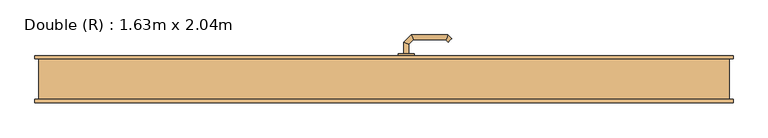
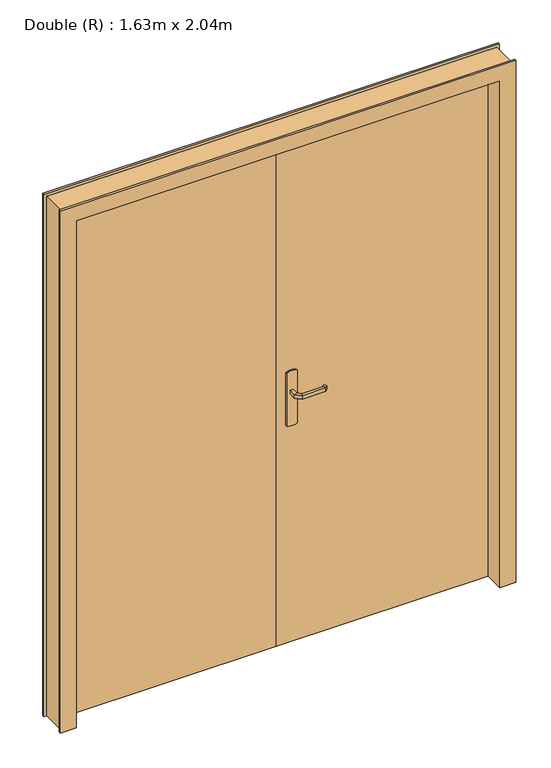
"""IFC4 building model written with IfcOpenShell, lengths in millimetres: door geometry, Double (R) : 1.63m x 2.04m."""

from ifc_helpers import new_model, si_unit, point, frame, frame_2d, origin, origin_with_axes, place, context, project, spatial, polyline, circle_curve, ellipse_curve, trimmed, segment, composite_curve, outline, extrude, faceted_brep, source, transform, mapped, element, save
from ifc_brep_helpers import plane_surface, cylinder_surface, advanced_brep


def double_r_1_63m_x_2_04m_5d470661(model_context):
    return source(origin(), model_context, "Body", "SolidModel", [
        advanced_brep(
        [(61.0, 13.0, 993.0), (49.0, 13.0, 993.0), (49.0, 13.0, 1007.0), (61.0, 13.0, 1007.0), (61.0, -9.4852045, 1007.0), (61.0, -9.4852045, 993.0), (49.0, -14.4557673, 1007.0), (49.0, -14.4557673, 993.0), (72.4852814, -20.9704859, 1007.0), (72.4852814, -20.9704859, 993.0), (67.5147186, -32.9704859, 1007.0), (67.5147186, -32.9704859, 993.0), (152.5605023, -20.9704859, 1007.0), (152.5605023, -20.9704859, 993.0), (157.531065, -32.9704859, 1007.0), (157.531065, -32.9704859, 993.0), (157.8742108, -15.6567774, 993.0), (157.8742108, -15.6567774, 1007.0), (166.3594922, -24.1420588, 1007.0), (166.3594922, -24.1420588, 993.0)],
        [
            (0, 1, circle_curve(frame((55.0, 13.0, 1013.0457722), z_axis=(0.0, 1.0, 0.0), x_axis=(-1.0, 0.0, 0.0)), 20.9244589)),
            (1, 2),
            (2, 3, circle_curve(frame((55.0, 13.0, 986.9542278), z_axis=(0.0, 1.0, 0.0), x_axis=(-1.0, 0.0, 0.0)), 20.9244589)),
            (3, 0),
            (3, 4),
            (4, 5),
            (5, 0),
            (2, 6),
            (6, 4, ellipse_curve(frame((55.0, -11.9704859, 986.9542278), z_axis=(-0.38268343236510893, 0.9238795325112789, 0.0), x_axis=(0.9238795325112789, 0.3826834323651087, 0.0)), 22.6484711, 20.9244589)),
            (1, 7),
            (7, 6),
            (5, 7, ellipse_curve(frame((55.0, -11.9704859, 1013.0457722), z_axis=(-0.38268343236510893, 0.9238795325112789, 0.0), x_axis=(0.9238795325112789, 0.3826834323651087, 0.0)), 22.6484711, 20.9244589)),
            (4, 8),
            (8, 9),
            (9, 5),
            (6, 10),
            (10, 8, ellipse_curve(frame((70.0, -26.9704859, 986.9542278), z_axis=(-0.9238795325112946, 0.38268343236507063, 0.0), x_axis=(0.3826834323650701, 0.9238795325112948, 0.0)), 22.6484711, 20.9244589)),
            (7, 11),
            (11, 10),
            (9, 11, ellipse_curve(frame((70.0, -26.9704859, 1013.0457722), z_axis=(-0.9238795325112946, 0.38268343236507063, 0.0), x_axis=(0.3826834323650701, 0.9238795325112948, 0.0)), 22.6484711, 20.9244589)),
            (8, 12),
            (12, 13),
            (13, 9),
            (10, 14),
            (14, 12, ellipse_curve(frame((155.0457837, -26.9704859, 986.9542278), z_axis=(-0.9238795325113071, -0.38268343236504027, 0.0), x_axis=(-0.38268343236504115, 0.9238795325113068, 0.0)), 22.6484711, 20.9244589)),
            (11, 15),
            (15, 14),
            (13, 15, ellipse_curve(frame((155.0457837, -26.9704859, 1013.0457722), z_axis=(-0.9238795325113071, -0.38268343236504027, 0.0), x_axis=(-0.38268343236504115, 0.9238795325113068, 0.0)), 22.6484711, 20.9244589)),
            (16, 17),
            (17, 18, circle_curve(frame((162.1168515, -19.8994181, 986.9542278), z_axis=(0.7071067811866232, 0.7071067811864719, 0.0), x_axis=(0.7071067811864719, -0.7071067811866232, 0.0)), 20.9244589)),
            (18, 19),
            (19, 16, circle_curve(frame((162.1168515, -19.8994181, 1013.0457722), z_axis=(0.7071067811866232, 0.7071067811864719, 0.0), x_axis=(0.7071067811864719, -0.7071067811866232, 0.0)), 20.9244589)),
            (12, 17),
            (16, 13),
            (14, 18),
            (15, 19),
        ],
        [
            plane_surface(frame((45.7804555, 13.0, 1000.0), z_axis=(0.0, 1.0, 0.0), x_axis=(0.0, 0.0, 1.0))),
            plane_surface(frame((61.0, 13.0, 993.0), z_axis=(1.0, 0.0, 0.0), x_axis=(0.0, -1.0, 0.0))),
            cylinder_surface(frame((55.0, 13.0, 986.9542278), z_axis=(0.0, 1.0, 0.0), x_axis=(-1.0, 0.0, 0.0)), 20.9244589),
            plane_surface(frame((49.0, 13.0, 1007.0), z_axis=(-1.0, 0.0, 0.0), x_axis=(0.0, -1.0, 0.0))),
            cylinder_surface(frame((55.0, 13.0, 1013.0457722), z_axis=(0.0, 1.0, 0.0), x_axis=(-1.0, 0.0, 0.0)), 20.9244589),
            plane_surface(frame((61.0, -9.4852045, 993.0), z_axis=(0.707106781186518, 0.707106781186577, 0.0), x_axis=(0.707106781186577, -0.707106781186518, 0.0))),
            cylinder_surface(frame((55.0, -11.9704859, 986.9542278), z_axis=(-0.7071067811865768, 0.7071067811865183, 0.0), x_axis=(-0.7071067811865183, -0.7071067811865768, 0.0)), 20.9244589),
            plane_surface(frame((49.0, -14.4557673, 1007.0), z_axis=(-0.7071067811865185, -0.7071067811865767, 0.0), x_axis=(0.7071067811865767, -0.7071067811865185, 0.0))),
            cylinder_surface(frame((55.0, -11.9704859, 1013.0457722), z_axis=(-0.7071067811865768, 0.7071067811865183, 0.0), x_axis=(-0.7071067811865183, -0.7071067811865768, 0.0)), 20.9244589),
            plane_surface(frame((72.4852814, -20.9704859, 993.0), z_axis=(0.0, 1.0, 0.0), x_axis=(1.0, 0.0, 0.0))),
            cylinder_surface(frame((70.0, -26.9704859, 986.9542278), z_axis=(-1.0, 0.0, 0.0), x_axis=(0.0, -1.0, 0.0)), 20.9244589),
            plane_surface(frame((67.5147186, -32.9704859, 1007.0), z_axis=(0.0, -1.0, 0.0), x_axis=(1.0, 0.0, 0.0))),
            cylinder_surface(frame((70.0, -26.9704859, 1013.0457722), z_axis=(-1.0, 0.0, 0.0), x_axis=(0.0, -1.0, 0.0)), 20.9244589),
            plane_surface(frame((162.1168515, -19.8994181, 990.7804555), z_axis=(0.7071067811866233, 0.7071067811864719, 0.0), x_axis=(0.7071067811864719, -0.7071067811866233, 0.0))),
            plane_surface(frame((152.5605023, -20.9704859, 993.0), z_axis=(-0.707106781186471, 0.7071067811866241, 0.0), x_axis=(0.7071067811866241, 0.707106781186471, 0.0))),
            cylinder_surface(frame((155.0457837, -26.9704859, 986.9542278), z_axis=(-0.7071067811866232, -0.7071067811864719, 0.0), x_axis=(0.7071067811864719, -0.7071067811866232, 0.0)), 20.9244589),
            plane_surface(frame((157.531065, -32.9704859, 1007.0), z_axis=(0.7071067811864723, -0.7071067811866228, 0.0), x_axis=(0.7071067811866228, 0.7071067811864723, 0.0))),
            cylinder_surface(frame((155.0457837, -26.9704859, 1013.0457722), z_axis=(-0.7071067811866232, -0.7071067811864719, 0.0), x_axis=(0.7071067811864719, -0.7071067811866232, 0.0)), 20.9244589),
        ],
        [
            (0, [[1, 2, 3, 4]]),
            (1, [[5, 6, 7, -4]]),
            (2, [[8, 9, -5, -3]]),
            (3, [[10, 11, -8, -2]]),
            (4, [[-7, 12, -10, -1]]),
            (5, [[13, 14, 15, -6]]),
            (6, [[16, 17, -13, -9]]),
            (7, [[18, 19, -16, -11]]),
            (8, [[-15, 20, -18, -12]]),
            (9, [[21, 22, 23, -14]]),
            (10, [[24, 25, -21, -17]]),
            (11, [[26, 27, -24, -19]]),
            (12, [[-23, 28, -26, -20]]),
            (13, [[29, 30, 31, 32]]),
            (14, [[33, -29, 34, -22]]),
            (15, [[35, -30, -33, -25]]),
            (16, [[36, -31, -35, -27]]),
            (17, [[-34, -32, -36, -28]]),
        ],
    ),
        advanced_brep(
        [(49.0, 63.0, 1007.0), (49.0, 63.0, 993.0), (61.0, 63.0, 993.0), (61.0, 63.0, 1007.0), (61.0, 85.680388, 1007.0), (49.0, 90.6509507, 1007.0), (61.0, 85.680388, 993.0), (49.0, 90.6509507, 993.0), (72.3477727, 97.0281607, 1007.0), (67.37721, 109.0281607, 1007.0), (72.3477727, 97.0281607, 993.0), (67.37721, 109.0281607, 993.0), (152.5333592, 97.0281607, 1007.0), (157.503922, 109.0281607, 1007.0), (152.5333592, 97.0281607, 993.0), (157.503922, 109.0281607, 993.0), (166.3323491, 100.1997336, 1007.0), (157.8470677, 91.7144522, 1007.0), (157.8470677, 91.7144522, 993.0), (166.3323491, 100.1997336, 993.0)],
        [
            (0, 1),
            (1, 2, circle_curve(frame((55.0, 63.0, 1013.0457722), z_axis=(0.0, -1.0, 0.0), x_axis=(1.0, 0.0, 0.0)), 20.9244589)),
            (2, 3),
            (3, 0, circle_curve(frame((55.0, 63.0, 986.9542278), z_axis=(0.0, -1.0, 0.0), x_axis=(1.0, 0.0, 0.0)), 20.9244589)),
            (3, 4),
            (4, 5, ellipse_curve(frame((55.0, 88.1656693, 986.9542278), z_axis=(-0.3826834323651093, -0.9238795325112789, 0.0), x_axis=(0.9238795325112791, -0.38268343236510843, 0.0)), 22.6484711, 20.9244589)),
            (5, 0),
            (2, 6),
            (6, 4),
            (1, 7),
            (7, 6, ellipse_curve(frame((55.0, 88.1656693, 1013.0457722), z_axis=(-0.3826834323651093, -0.9238795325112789, 0.0), x_axis=(0.9238795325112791, -0.38268343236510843, 0.0)), 22.6484711, 20.9244589)),
            (5, 7),
            (4, 8),
            (8, 9, ellipse_curve(frame((69.8624914, 103.0281607, 986.9542278), z_axis=(-0.9238795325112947, -0.38268343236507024, 0.0), x_axis=(0.3826834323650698, -0.9238795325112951, 0.0)), 22.6484711, 20.9244589)),
            (9, 5),
            (6, 10),
            (10, 8),
            (7, 11),
            (11, 10, ellipse_curve(frame((69.8624914, 103.0281607, 1013.0457722), z_axis=(-0.9238795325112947, -0.38268343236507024, 0.0), x_axis=(0.3826834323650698, -0.9238795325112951, 0.0)), 22.6484711, 20.9244589)),
            (9, 11),
            (8, 12),
            (12, 13, ellipse_curve(frame((155.0186406, 103.0281607, 986.9542278), z_axis=(-0.9238795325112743, 0.3826834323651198, 0.0), x_axis=(-0.38268343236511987, -0.9238795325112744, 0.0)), 22.6484711, 20.9244589)),
            (13, 9),
            (10, 14),
            (14, 12),
            (11, 15),
            (15, 14, ellipse_curve(frame((155.0186406, 103.0281607, 1013.0457722), z_axis=(-0.9238795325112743, 0.3826834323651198, 0.0), x_axis=(-0.38268343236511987, -0.9238795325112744, 0.0)), 22.6484711, 20.9244589)),
            (13, 15),
            (16, 17, circle_curve(frame((162.0897084, 95.9570929, 986.9542278), z_axis=(0.7071067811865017, -0.7071067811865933, 0.0), x_axis=(-0.7071067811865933, -0.7071067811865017, 0.0)), 20.9244589)),
            (17, 18),
            (18, 19, circle_curve(frame((162.0897084, 95.9570929, 1013.0457722), z_axis=(0.7071067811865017, -0.7071067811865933, 0.0), x_axis=(-0.7071067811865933, -0.7071067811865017, 0.0)), 20.9244589)),
            (19, 16),
            (12, 17),
            (16, 13),
            (14, 18),
            (15, 19),
        ],
        [
            plane_surface(frame((45.7804555, 63.0, 1000.0), z_axis=(0.0, -1.0, 0.0), x_axis=(0.0, 0.0, -1.0))),
            cylinder_surface(frame((55.0, 63.0, 986.9542278), z_axis=(0.0, -1.0, 0.0), x_axis=(1.0, 0.0, 0.0)), 20.9244589),
            plane_surface(frame((61.0, 63.0, 1007.0), z_axis=(1.0, 0.0, 0.0), x_axis=(0.0, 1.0, 0.0))),
            cylinder_surface(frame((55.0, 63.0, 1013.0457722), z_axis=(0.0, -1.0, 0.0), x_axis=(1.0, 0.0, 0.0)), 20.9244589),
            plane_surface(frame((49.0, 63.0, 993.0), z_axis=(-1.0, 0.0, 0.0), x_axis=(0.0, 1.0, 0.0))),
            cylinder_surface(frame((55.0, 88.1656693, 986.9542278), z_axis=(-0.7071067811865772, -0.7071067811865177, 0.0), x_axis=(0.7071067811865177, -0.7071067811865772, 0.0)), 20.9244589),
            plane_surface(frame((61.0, 85.680388, 1007.0), z_axis=(0.7071067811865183, -0.7071067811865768, 0.0), x_axis=(0.7071067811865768, 0.7071067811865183, 0.0))),
            cylinder_surface(frame((55.0, 88.1656693, 1013.0457722), z_axis=(-0.7071067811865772, -0.7071067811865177, 0.0), x_axis=(0.7071067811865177, -0.7071067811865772, 0.0)), 20.9244589),
            plane_surface(frame((49.0, 90.6509507, 993.0), z_axis=(-0.707106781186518, 0.707106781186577, 0.0), x_axis=(0.707106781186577, 0.707106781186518, 0.0))),
            cylinder_surface(frame((69.8624914, 103.0281607, 986.9542278), z_axis=(-1.0, 0.0, 0.0), x_axis=(0.0, -1.0, 0.0)), 20.9244589),
            plane_surface(frame((72.3477727, 97.0281607, 1007.0), z_axis=(0.0, -1.0, 0.0), x_axis=(1.0, 0.0, 0.0))),
            cylinder_surface(frame((69.8624914, 103.0281607, 1013.0457722), z_axis=(-1.0, 0.0, 0.0), x_axis=(0.0, -1.0, 0.0)), 20.9244589),
            plane_surface(frame((67.37721, 109.0281607, 993.0), z_axis=(0.0, 1.0, 0.0), x_axis=(1.0, 0.0, 0.0))),
            plane_surface(frame((162.0897084, 95.9570929, 1009.2195445), z_axis=(0.7071067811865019, -0.7071067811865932, 0.0), x_axis=(0.7071067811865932, 0.7071067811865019, 0.0))),
            cylinder_surface(frame((155.0186406, 103.0281607, 986.9542278), z_axis=(-0.7071067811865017, 0.7071067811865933, 0.0), x_axis=(-0.7071067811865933, -0.7071067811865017, 0.0)), 20.9244589),
            plane_surface(frame((152.5333592, 97.0281607, 1007.0), z_axis=(-0.7071067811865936, -0.7071067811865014, 0.0), x_axis=(0.7071067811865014, -0.7071067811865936, 0.0))),
            cylinder_surface(frame((155.0186406, 103.0281607, 1013.0457722), z_axis=(-0.7071067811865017, 0.7071067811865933, 0.0), x_axis=(-0.7071067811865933, -0.7071067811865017, 0.0)), 20.9244589),
            plane_surface(frame((157.503922, 109.0281607, 993.0), z_axis=(0.707106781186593, 0.7071067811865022, 0.0), x_axis=(0.7071067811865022, -0.707106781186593, 0.0))),
        ],
        [
            (0, [[1, 2, 3, 4]]),
            (1, [[5, 6, 7, -4]]),
            (2, [[8, 9, -5, -3]]),
            (3, [[10, 11, -8, -2]]),
            (4, [[-7, 12, -10, -1]]),
            (5, [[13, 14, 15, -6]]),
            (6, [[16, 17, -13, -9]]),
            (7, [[18, 19, -16, -11]]),
            (8, [[-15, 20, -18, -12]]),
            (9, [[21, 22, 23, -14]]),
            (10, [[24, 25, -21, -17]]),
            (11, [[26, 27, -24, -19]]),
            (12, [[-23, 28, -26, -20]]),
            (13, [[29, 30, 31, 32]]),
            (14, [[33, -29, 34, -22]]),
            (15, [[35, -30, -33, -25]]),
            (16, [[36, -31, -35, -27]]),
            (17, [[-34, -32, -36, -28]]),
        ],
    ),
        extrude(outline(composite_curve([segment(trimmed(circle_curve(frame_2d((1045.3589838, 55.0)), 40.0), [point((1080.0, 75.0))], [point((1080.0, 35.0))], False, "CARTESIAN"), True, "CONTINUOUS"), segment(polyline([(1080.0, 35.0), (870.0, 35.0)]), True, "CONTINUOUS"), segment(trimmed(circle_curve(frame_2d((904.6410162, 55.0)), 40.0), [point((870.0, 35.0))], [point((870.0, 75.0))], False, "CARTESIAN"), True, "CONTINUOUS"), segment(polyline([(870.0, 75.0), (1080.0, 75.0)]), True, "CONTINUOUS")], self_intersect=False)), frame((0.0, 13.0, 0.0), z_axis=(0.0, 1.0, 0.0), x_axis=(0.0, 0.0, 1.0)), (0.0, 0.0, 1.0), 5.0),
        extrude(outline(composite_curve([segment(trimmed(circle_curve(frame_2d((904.6410162, 55.0)), 40.0), [point((870.0, 35.0))], [point((870.0, 75.0))], False, "CARTESIAN"), True, "CONTINUOUS"), segment(polyline([(870.0, 75.0), (1080.0, 75.0)]), True, "CONTINUOUS"), segment(trimmed(circle_curve(frame_2d((1045.3589838, 55.0)), 40.0), [point((1080.0, 75.0))], [point((1080.0, 35.0))], False, "CARTESIAN"), True, "CONTINUOUS"), segment(polyline([(1080.0, 35.0), (870.0, 35.0)]), True, "CONTINUOUS")], self_intersect=False)), frame((0.0, 58.0, 0.0), z_axis=(0.0, 1.0, 0.0), x_axis=(0.0, 0.0, 1.0)), (0.0, 0.0, 1.0), 5.0),
        faceted_brep([(-850.0, 50.0, 0.0), (-860.0, 50.0, 0.0), (-860.0, 58.0, 0.0), (-815.0, 58.0, 0.0), (-815.0, 18.0, 0.0), (-800.0, 18.0, 0.0), (-800.0, -58.0, 0.0), (-860.0, -58.0, 0.0), (-860.0, -50.0, 0.0), (-850.0, -50.0, 0.0), (-850.0, -50.0, 2075.0), (-850.0, 50.0, 2075.0), (-860.0, -50.0, 2085.0), (860.0, -50.0, 2085.0), (860.0, -50.0, 0.0), (850.0, -50.0, 0.0), (850.0, -50.0, 2075.0), (-860.0, -58.0, 2085.0), (-800.0, -58.0, 2025.0), (800.0, -58.0, 2025.0), (800.0, -58.0, 0.0), (860.0, -58.0, 0.0), (860.0, -58.0, 2085.0), (-800.0, 18.0, 2025.0), (-815.0, 18.0, 2040.0), (815.0, 18.0, 2040.0), (815.0, 18.0, 0.0), (800.0, 18.0, 0.0), (800.0, 18.0, 2025.0), (-815.0, 58.0, 2040.0), (-860.0, 58.0, 2085.0), (860.0, 58.0, 2085.0), (860.0, 58.0, 0.0), (815.0, 58.0, 0.0), (815.0, 58.0, 2040.0), (-860.0, 50.0, 2085.0), (850.0, 50.0, 2075.0), (850.0, 50.0, 0.0), (860.0, 50.0, 0.0), (860.0, 50.0, 2085.0)], [[[0, 1, 2, 3, 4, 5, 6, 7, 8, 9]], [[9, 10, 11, 0]], [[8, 12, 13, 14, 15, 16, 10, 9]], [[7, 17, 12, 8]], [[6, 18, 19, 20, 21, 22, 17, 7]], [[5, 23, 18, 6]], [[4, 24, 25, 26, 27, 28, 23, 5]], [[3, 29, 24, 4]], [[2, 30, 31, 32, 33, 34, 29, 3]], [[1, 35, 30, 2]], [[0, 11, 36, 37, 38, 39, 35, 1]], [[16, 15, 37, 36]], [[37, 15, 14, 21, 20, 27, 26, 33, 32, 38]], [[22, 21, 14, 13]], [[28, 27, 20, 19]], [[34, 33, 26, 25]], [[39, 38, 32, 31]], [[10, 16, 36, 11]], [[17, 22, 13, 12]], [[23, 28, 19, 18]], [[29, 34, 25, 24]], [[35, 39, 31, 30]]]),
        extrude(outline(polyline([(815.0, 58.0), (815.0, 18.0), (0.0, 18.0), (0.0, 58.0), (815.0, 58.0)])), origin_with_axes(), (0.0, 0.0, 1.0), 2040.0),
        extrude(outline(polyline([(0.0, 58.0), (0.0, 18.0), (-815.0, 18.0), (-815.0, 58.0), (0.0, 58.0)])), origin_with_axes(), (0.0, 0.0, 1.0), 2040.0),
    ])


if __name__ == "__main__":
    model = new_model("IFC4")
    model_context = context("Model", 3, world=origin())
    ifc_project = project(units=[si_unit("LENGTHUNIT", "METRE", prefix="MILLI")], contexts=[model_context])
    site = spatial("IfcSite", under=ifc_project)
    building = spatial("IfcBuilding", under=site)
    placement = place(None, origin())
    double_r_1_63m_x_2_04m_shape = double_r_1_63m_x_2_04m_5d470661(model_context)
    element("IfcDoor", 1, ObjectType="Double (R) : 1.63m x 2.04m", at=placement, inside=building, context=model_context, shape_type="MappedRepresentation", body=[
        mapped(double_r_1_63m_x_2_04m_shape, transform((0.0, 0.0, 0.0), x_axis=(1.0, 0.0, 0.0), y_axis=(0.0, 1.0, 0.0), z_axis=(0.0, 0.0, 1.0))),
    ])
    save(model, "model.ifc")
